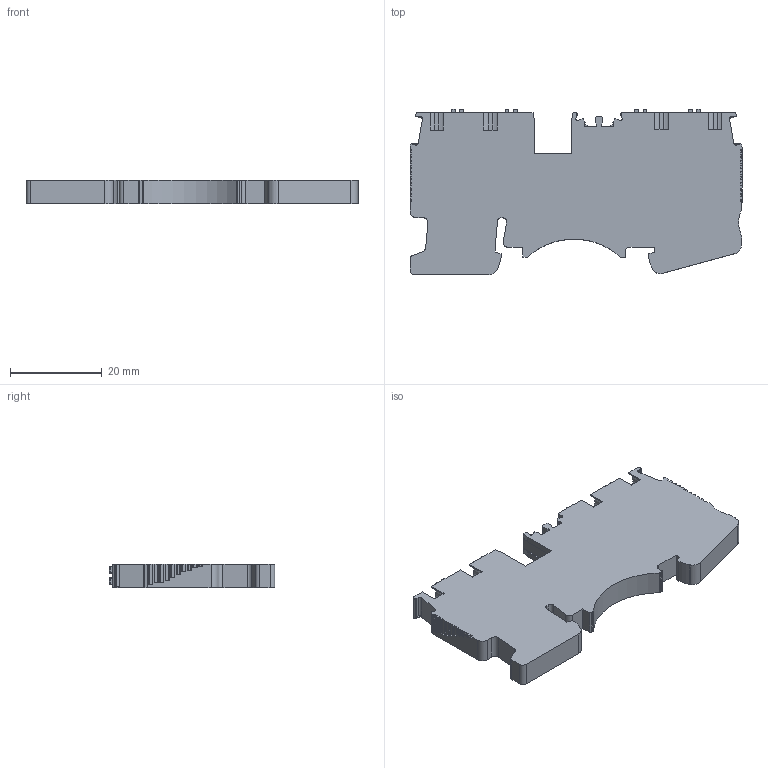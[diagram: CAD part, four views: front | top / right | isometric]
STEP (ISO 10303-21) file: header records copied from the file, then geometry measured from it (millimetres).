
FILE_DESCRIPTION((''),'2;1');
FILE_NAME('PRT0023','2020-05-27T',('Administrator'),(''),'PRO/ENGINEER BY PARAMETRIC TECHNOLOGY CORPORATION, 2010280','PRO/ENGINEER BY PARAMETRIC TECHNOLOGY CORPORATION, 2010280','');
FILE_SCHEMA(('CONFIG_CONTROL_DESIGN'));
Length unit declared in the file: millimetre
Products named in the file (1): PRT0023
Bounding box: 72.2 x 35.98 x 5.2 mm (x, y, z)
Volume: 10637.1 mm3; surface area: 6033.9 mm2
Topology: 1 solids, 1 shells, 520 faces, 1456 edges, 923 vertices
Faces by surface type: plane 348, cylinder 138, sphere 32, cone 2
Entity records: 16390 total; most frequent: CARTESIAN_POINT 2923, ORIENTED_EDGE 2848, DIRECTION 2757, EDGE_CURVE 1424, VECTOR 1105, LINE 1105, VERTEX_POINT 923, AXIS2_PLACEMENT_3D 826
